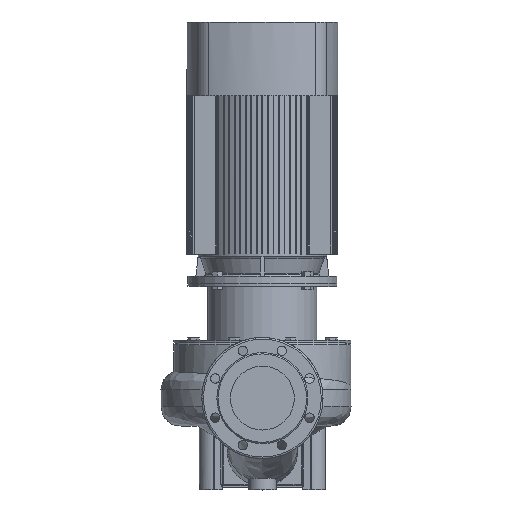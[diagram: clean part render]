
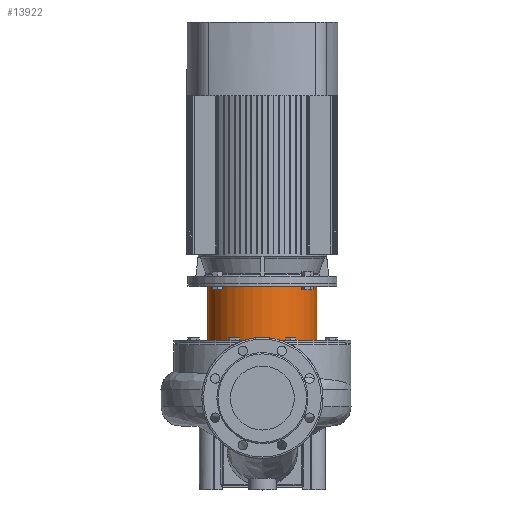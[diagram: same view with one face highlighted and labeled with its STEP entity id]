
A CAD part, top view. The second image highlights one B-rep face of the part: STEP entity #13922.
In plain terms, the highlighted cylindrical face has radius 128 mm (diameter 256 mm), a partial arc.
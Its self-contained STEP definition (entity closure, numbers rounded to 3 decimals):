
#115 = LINE ( 'NONE', #29581, #10517 ) ;
#195 = DIRECTION ( 'NONE',  ( 1., 0., 0. ) ) ;
#1592 = VERTEX_POINT ( 'NONE', #7765 ) ;
#2295 = VERTEX_POINT ( 'NONE', #14676 ) ;
#2512 = CARTESIAN_POINT ( 'NONE',  ( 0., 0., -6. ) ) ;
#3109 = ORIENTED_EDGE ( 'NONE', *, *, #11474, .F. ) ;
#5438 = CIRCLE ( 'NONE', #6467, 128. ) ;
#5916 = DIRECTION ( 'NONE',  ( 0., 0., 1. ) ) ;
#6030 = LINE ( 'NONE', #30095, #29304 ) ;
#6467 = AXIS2_PLACEMENT_3D ( 'NONE', #12305, #29193, #195 ) ;
#6997 = EDGE_CURVE ( 'NONE', #2295, #1592, #115, .T. ) ;
#7765 = CARTESIAN_POINT ( 'NONE',  ( -128., 0., -6. ) ) ;
#8462 = DIRECTION ( 'NONE',  ( 1., 0., 0. ) ) ;
#9344 = EDGE_CURVE ( 'NONE', #2295, #16795, #5438, .T. ) ;
#10517 = VECTOR ( 'NONE', #25119, 1000. ) ;
#11474 = EDGE_CURVE ( 'NONE', #1592, #24116, #23889, .T. ) ;
#12305 = CARTESIAN_POINT ( 'NONE',  ( 0., 0., -133. ) ) ;
#12677 = ORIENTED_EDGE ( 'NONE', *, *, #6997, .F. ) ;
#12730 = DIRECTION ( 'NONE',  ( 0., 0., 1. ) ) ;
#13092 = CYLINDRICAL_SURFACE ( 'NONE', #25867, 128. ) ;
#13254 = CARTESIAN_POINT ( 'NONE',  ( 0., 0., 14.36 ) ) ;
#13922 = ADVANCED_FACE ( 'NONE', ( #17721 ), #13092, .T. ) ;
#14676 = CARTESIAN_POINT ( 'NONE',  ( -128., 0., -133. ) ) ;
#14777 = DIRECTION ( 'NONE',  ( 0., 0., 1. ) ) ;
#16795 = VERTEX_POINT ( 'NONE', #23809 ) ;
#17721 = FACE_OUTER_BOUND ( 'NONE', #28032, .T. ) ;
#18297 = AXIS2_PLACEMENT_3D ( 'NONE', #2512, #14777, #19731 ) ;
#19731 = DIRECTION ( 'NONE',  ( 1., 0., 0. ) ) ;
#23809 = CARTESIAN_POINT ( 'NONE',  ( 128., 0., -133. ) ) ;
#23889 = CIRCLE ( 'NONE', #18297, 128. ) ;
#24049 = CARTESIAN_POINT ( 'NONE',  ( 128., 0., -6. ) ) ;
#24116 = VERTEX_POINT ( 'NONE', #24049 ) ;
#25076 = ORIENTED_EDGE ( 'NONE', *, *, #9344, .T. ) ;
#25119 = DIRECTION ( 'NONE',  ( 0., 0., 1. ) ) ;
#25867 = AXIS2_PLACEMENT_3D ( 'NONE', #13254, #5916, #8462 ) ;
#26000 = EDGE_CURVE ( 'NONE', #16795, #24116, #6030, .T. ) ;
#26543 = ORIENTED_EDGE ( 'NONE', *, *, #26000, .T. ) ;
#28032 = EDGE_LOOP ( 'NONE', ( #12677, #25076, #26543, #3109 ) ) ;
#29193 = DIRECTION ( 'NONE',  ( 0., 0., 1. ) ) ;
#29304 = VECTOR ( 'NONE', #12730, 1000. ) ;
#29581 = CARTESIAN_POINT ( 'NONE',  ( -128., 0., 14.36 ) ) ;
#30095 = CARTESIAN_POINT ( 'NONE',  ( 128., 0., 14.36 ) ) ;
